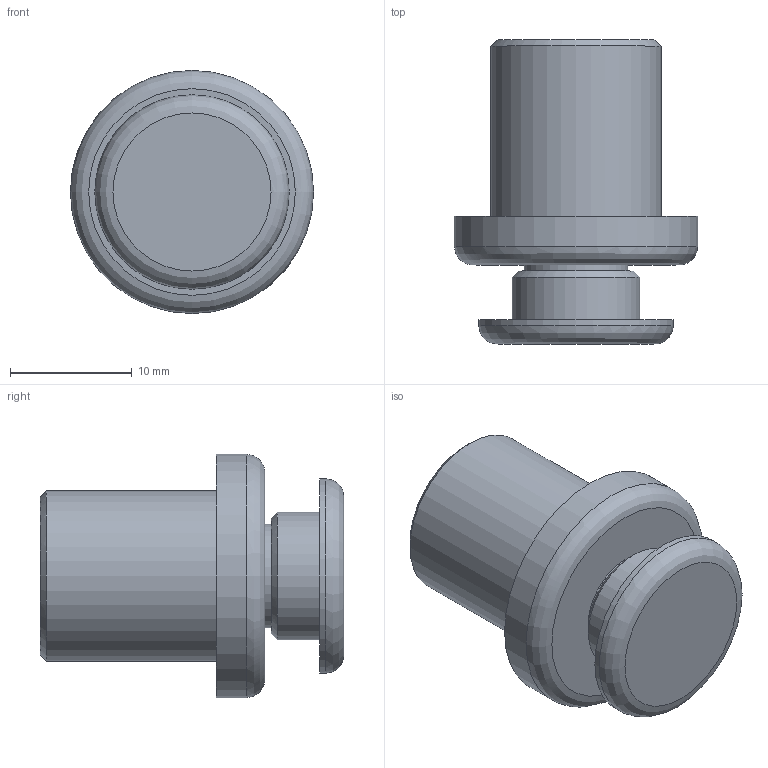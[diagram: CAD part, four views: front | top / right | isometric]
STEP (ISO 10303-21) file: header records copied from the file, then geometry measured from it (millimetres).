
FILE_DESCRIPTION(('STEP AP214'),'2;1');
FILE_NAME('ART-30414P200A2_0.stp','2026-02-02T14:30:26',(''),(''),'2009.3.110','THINKDESIGN','');
FILE_SCHEMA(('AUTOMOTIVE_DESIGN'));
Length unit declared in the file: millimetre
Products named in the file (1): None
Bounding box: 20 x 25 x 20 mm (x, y, z)
Volume: 4203.6 mm3; surface area: 1953.8 mm2
Topology: 1 solids, 1 shells, 15 faces, 37 edges, 28 vertices
Faces by surface type: plane 6, cylinder 5, bspline 4
Full cylindrical faces by diameter (mm): 8.5 x1, 10.5 x1, 14 x1, 16 x1, 20 x1
Entity records: 1333 total; most frequent: CARTESIAN_POINT 790, DIRECTION 89, ORIENTED_EDGE 74, AXIS2_PLACEMENT_3D 41, EDGE_CURVE 37, CIRCLE 30, VERTEX_POINT 28, EDGE_LOOP 19
